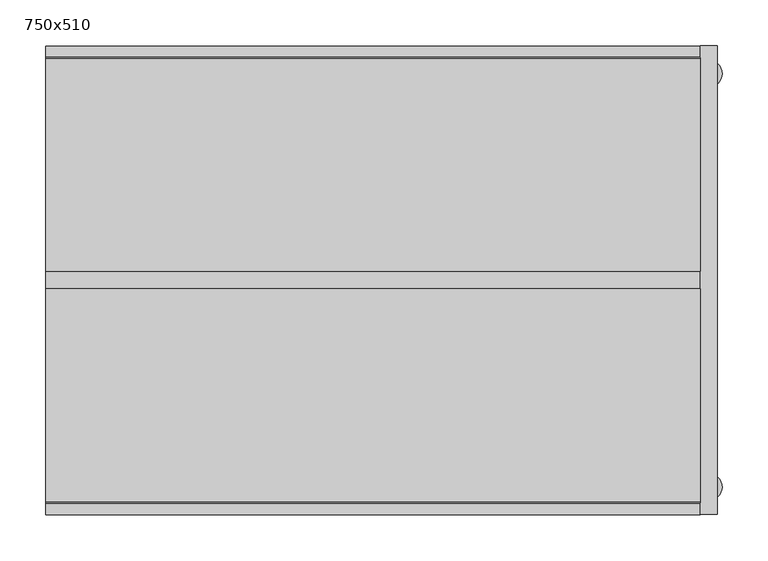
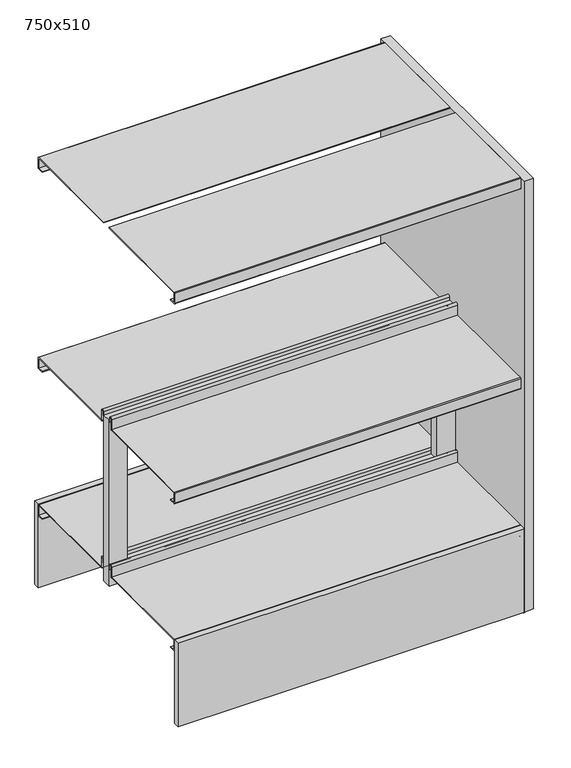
"""IFC4 building model written with IfcOpenShell, lengths in millimetres: furniture geometry, BK Library - Smaaland DF - 950 : 750x510."""

from ifc_helpers import new_model, si_unit, point, frame, frame_2d, origin, origin_with_axes, place, context, project, spatial, polyline, circle_curve, trimmed, segment, composite_curve, outline, extrude, source, transform, mapped, element, save


def furniture_750x510_70c1093e(model_context):
    return source(origin(), model_context, "Body", "SweptSolid", [
        extrude(outline(polyline([(356.0, 255.0), (356.0, 242.7476624), (-356.0, 242.7476624), (-356.0, 255.0), (356.0, 255.0)])), frame((0.0, 0.0, 13.6999998), z_axis=(0.0, 0.0, 1.0), x_axis=(1.0, 0.0, 0.0)), (0.0, 0.0, 1.0), 181.4999514),
        extrude(outline(polyline([(356.0, -242.7476624), (356.0, -255.0), (-356.0, -255.0), (-356.0, -242.7476624), (356.0, -242.7476624)])), frame((0.0, 0.0, 13.6999998), z_axis=(0.0, 0.0, 1.0), x_axis=(1.0, 0.0, 0.0)), (0.0, 0.0, 1.0), 181.4999514),
        extrude(outline(polyline([(530.699951, -356.0), (170.699951, -356.0), (170.699951, 356.0), (530.699951, 356.0), (530.699951, -356.0)]), holes=[polyline([(490.6999512, -317.5), (490.6999512, 317.5), (210.6999512, 317.5), (210.6999512, -317.5), (490.6999512, -317.5)])]), frame((0.0, -9.5, 0.0), z_axis=(0.0, 1.0, 0.0), x_axis=(0.0, 0.0, 1.0)), (0.0, 0.0, 1.0), 19.0),
        extrude(outline(composite_curve([segment(polyline([(9.5, 950.0), (241.25, 950.0)]), True, "CONTINUOUS"), segment(trimmed(circle_curve(frame_2d((241.25, 948.5)), 1.5), [point((241.25, 950.0))], [point((242.75, 948.5))], False, "CARTESIAN"), True, "CONTINUOUS"), segment(polyline([(242.75, 948.5), (242.75, 926.5)]), True, "CONTINUOUS"), segment(trimmed(circle_curve(frame_2d((241.25, 926.5)), 1.5), [point((242.75, 926.5))], [point((241.25, 925.0))], False, "CARTESIAN"), True, "CONTINUOUS"), segment(polyline([(241.25, 925.0), (229.25, 925.0), (229.25, 926.5), (241.25, 926.5), (241.25, 948.0), (9.5, 948.0), (9.5, 950.0)]), True, "CONTINUOUS")], self_intersect=False)), frame((-356.0, 0.0, 0.0), z_axis=(1.0, 0.0, 0.0), x_axis=(0.0, 1.0, 0.0)), (0.0, 0.0, 1.0), 712.0),
        extrude(outline(composite_curve([segment(polyline([(17.75, 515.1999512), (241.25, 515.1999512)]), True, "CONTINUOUS"), segment(trimmed(circle_curve(frame_2d((241.25, 513.6999512)), 1.5), [point((241.25, 515.1999512))], [point((242.75, 513.6999512))], False, "CARTESIAN"), True, "CONTINUOUS"), segment(polyline([(242.75, 513.6999512), (242.75, 492.1999512)]), True, "CONTINUOUS"), segment(trimmed(circle_curve(frame_2d((241.25, 492.1999512)), 1.5), [point((242.75, 492.1999512))], [point((241.25, 490.6999512))], False, "CARTESIAN"), True, "CONTINUOUS"), segment(polyline([(241.25, 490.6999512), (229.25, 490.6999512), (229.25, 492.1999512), (241.25, 492.1999512), (241.25, 513.6999512), (17.7048221, 513.6999512)]), True, "CONTINUOUS"), segment(trimmed(circle_curve(frame_2d((17.7048221, 515.1547733)), 1.4548221), [point((17.7048221, 513.6999512))], [point((16.25, 515.1547733))], False, "CARTESIAN"), True, "CONTINUOUS"), segment(polyline([(16.25, 515.1547733), (16.25, 536.7020126)]), True, "CONTINUOUS"), segment(trimmed(circle_curve(frame_2d((14.25, 536.7020126)), 2.0), [point((16.25, 536.7020126))], [point((12.25, 536.7020126))], True, "CARTESIAN"), True, "CONTINUOUS"), segment(polyline([(12.25, 536.7020126), (12.25, 528.1999512), (10.75, 528.1999512), (10.75, 536.7196336)]), True, "CONTINUOUS"), segment(trimmed(circle_curve(frame_2d((14.25, 536.7196336)), 3.5), [point((10.75, 536.7196336))], [point((17.75, 536.7196336))], False, "CARTESIAN"), True, "CONTINUOUS"), segment(polyline([(17.75, 536.7196336), (17.75, 515.1999512)]), True, "CONTINUOUS")], self_intersect=False)), frame((-356.0, 0.0, 0.0), z_axis=(1.0, 0.0, 0.0), x_axis=(0.0, 1.0, 0.0)), (0.0, 0.0, 1.0), 712.0),
        extrude(outline(composite_curve([segment(polyline([(17.75, 195.1999512), (241.25, 195.1999512)]), True, "CONTINUOUS"), segment(trimmed(circle_curve(frame_2d((241.25, 193.6999512)), 1.5), [point((241.25, 195.1999512))], [point((242.75, 193.6999512))], False, "CARTESIAN"), True, "CONTINUOUS"), segment(polyline([(242.75, 193.6999512), (242.75, 172.1999512)]), True, "CONTINUOUS"), segment(trimmed(circle_curve(frame_2d((241.25, 172.1999512)), 1.5), [point((242.75, 172.1999512))], [point((241.25, 170.6999512))], False, "CARTESIAN"), True, "CONTINUOUS"), segment(polyline([(241.25, 170.6999512), (229.25, 170.6999512), (229.25, 172.1999512), (241.25, 172.1999512), (241.25, 193.6999512), (17.7048221, 193.6999512)]), True, "CONTINUOUS"), segment(trimmed(circle_curve(frame_2d((17.7048221, 195.1547733)), 1.4548221), [point((17.7048221, 193.6999512))], [point((16.25, 195.1547733))], False, "CARTESIAN"), True, "CONTINUOUS"), segment(polyline([(16.25, 195.1547733), (16.25, 216.7020126)]), True, "CONTINUOUS"), segment(trimmed(circle_curve(frame_2d((14.25, 216.7020126)), 2.0), [point((16.25, 216.7020126))], [point((12.25, 216.7020126))], True, "CARTESIAN"), True, "CONTINUOUS"), segment(polyline([(12.25, 216.7020126), (12.25, 208.1999512), (10.75, 208.1999512), (10.75, 216.7196336)]), True, "CONTINUOUS"), segment(trimmed(circle_curve(frame_2d((14.25, 216.7196336)), 3.5), [point((10.75, 216.7196336))], [point((17.75, 216.7196336))], False, "CARTESIAN"), True, "CONTINUOUS"), segment(polyline([(17.75, 216.7196336), (17.75, 195.1999512)]), True, "CONTINUOUS")], self_intersect=False)), frame((-356.0, 0.0, 0.0), z_axis=(1.0, 0.0, 0.0), x_axis=(0.0, 1.0, 0.0)), (0.0, 0.0, 1.0), 712.0),
        extrude(outline(composite_curve([segment(polyline([(-9.5, 950.0), (-9.5, 948.0), (-241.25, 948.0), (-241.25, 926.5), (-229.25, 926.5), (-229.25, 925.0), (-241.25, 925.0)]), True, "CONTINUOUS"), segment(trimmed(circle_curve(frame_2d((-241.25, 926.5)), 1.5), [point((-241.25, 925.0))], [point((-242.75, 926.5))], False, "CARTESIAN"), True, "CONTINUOUS"), segment(polyline([(-242.75, 926.5), (-242.75, 948.5)]), True, "CONTINUOUS"), segment(trimmed(circle_curve(frame_2d((-241.25, 948.5)), 1.5), [point((-242.75, 948.5))], [point((-241.25, 950.0))], False, "CARTESIAN"), True, "CONTINUOUS"), segment(polyline([(-241.25, 950.0), (-9.5, 950.0)]), True, "CONTINUOUS")], self_intersect=False)), frame((-356.0, 0.0, 0.0), z_axis=(1.0, 0.0, 0.0), x_axis=(0.0, 1.0, 0.0)), (0.0, 0.0, 1.0), 712.0),
        extrude(outline(composite_curve([segment(polyline([(-17.75, 515.1999512), (-17.75, 536.7196336)]), True, "CONTINUOUS"), segment(trimmed(circle_curve(frame_2d((-14.25, 536.7196336)), 3.5), [point((-17.75, 536.7196336))], [point((-10.75, 536.7196336))], False, "CARTESIAN"), True, "CONTINUOUS"), segment(polyline([(-10.75, 536.7196336), (-10.75, 528.1999512), (-12.25, 528.1999512), (-12.25, 536.7020126)]), True, "CONTINUOUS"), segment(trimmed(circle_curve(frame_2d((-14.25, 536.7020126)), 2.0), [point((-12.25, 536.7020126))], [point((-16.25, 536.7020126))], True, "CARTESIAN"), True, "CONTINUOUS"), segment(polyline([(-16.25, 536.7020126), (-16.25, 515.1547733)]), True, "CONTINUOUS"), segment(trimmed(circle_curve(frame_2d((-17.7048221, 515.1547733)), 1.4548221), [point((-16.25, 515.1547733))], [point((-17.7048221, 513.6999512))], False, "CARTESIAN"), True, "CONTINUOUS"), segment(polyline([(-17.7048221, 513.6999512), (-241.25, 513.6999512), (-241.25, 492.1999512), (-229.25, 492.1999512), (-229.25, 490.6999512), (-241.25, 490.6999512)]), True, "CONTINUOUS"), segment(trimmed(circle_curve(frame_2d((-241.25, 492.1999512)), 1.5), [point((-241.25, 490.6999512))], [point((-242.75, 492.1999512))], False, "CARTESIAN"), True, "CONTINUOUS"), segment(polyline([(-242.75, 492.1999512), (-242.75, 513.6999512)]), True, "CONTINUOUS"), segment(trimmed(circle_curve(frame_2d((-241.25, 513.6999512)), 1.5), [point((-242.75, 513.6999512))], [point((-241.25, 515.1999512))], False, "CARTESIAN"), True, "CONTINUOUS"), segment(polyline([(-241.25, 515.1999512), (-17.75, 515.1999512)]), True, "CONTINUOUS")], self_intersect=False)), frame((-356.0, 0.0, 0.0), z_axis=(1.0, 0.0, 0.0), x_axis=(0.0, 1.0, 0.0)), (0.0, 0.0, 1.0), 712.0),
        extrude(outline(composite_curve([segment(polyline([(-17.75, 195.1999512), (-17.75, 216.7196336)]), True, "CONTINUOUS"), segment(trimmed(circle_curve(frame_2d((-14.25, 216.7196336)), 3.5), [point((-17.75, 216.7196336))], [point((-10.75, 216.7196336))], False, "CARTESIAN"), True, "CONTINUOUS"), segment(polyline([(-10.75, 216.7196336), (-10.75, 208.1999512), (-12.25, 208.1999512), (-12.25, 216.7020126)]), True, "CONTINUOUS"), segment(trimmed(circle_curve(frame_2d((-14.25, 216.7020126)), 2.0), [point((-12.25, 216.7020126))], [point((-16.25, 216.7020126))], True, "CARTESIAN"), True, "CONTINUOUS"), segment(polyline([(-16.25, 216.7020126), (-16.25, 195.1547733)]), True, "CONTINUOUS"), segment(trimmed(circle_curve(frame_2d((-17.7048221, 195.1547733)), 1.4548221), [point((-16.25, 195.1547733))], [point((-17.7048221, 193.6999512))], False, "CARTESIAN"), True, "CONTINUOUS"), segment(polyline([(-17.7048221, 193.6999512), (-241.25, 193.6999512), (-241.25, 172.1999512), (-229.25, 172.1999512), (-229.25, 170.6999512), (-241.25, 170.6999512)]), True, "CONTINUOUS"), segment(trimmed(circle_curve(frame_2d((-241.25, 172.1999512)), 1.5), [point((-241.25, 170.6999512))], [point((-242.75, 172.1999512))], False, "CARTESIAN"), True, "CONTINUOUS"), segment(polyline([(-242.75, 172.1999512), (-242.75, 193.6999512)]), True, "CONTINUOUS"), segment(trimmed(circle_curve(frame_2d((-241.25, 193.6999512)), 1.5), [point((-242.75, 193.6999512))], [point((-241.25, 195.1999512))], False, "CARTESIAN"), True, "CONTINUOUS"), segment(polyline([(-241.25, 195.1999512), (-17.75, 195.1999512)]), True, "CONTINUOUS")], self_intersect=False)), frame((-356.0, 0.0, 0.0), z_axis=(1.0, 0.0, 0.0), x_axis=(0.0, 1.0, 0.0)), (0.0, 0.0, 1.0), 712.0),
        extrude(outline(polyline([(356.0, 255.0), (375.0, 255.0), (375.0, -255.0), (356.0, -255.0), (356.0, 255.0)])), frame((0.0, 0.0, 13.6999998), z_axis=(0.0, 0.0, 1.0), x_axis=(1.0, 0.0, 0.0)), (0.0, 0.0, 1.0), 936.3000002),
        extrude(outline(composite_curve([segment(trimmed(circle_curve(frame_2d((365.5005427, 224.9952633)), 14.4994573), [point((380.0, 224.9952633))], [point((351.0010853, 224.9952633))], False, "CARTESIAN"), True, "CONTINUOUS"), segment(trimmed(circle_curve(frame_2d((365.5005427, 224.9952633)), 14.4994573), [point((351.0010853, 224.9952633))], [point((380.0, 224.9952633))], False, "CARTESIAN"), True, "CONTINUOUS")], self_intersect=False)), origin_with_axes(), (0.0, 0.0, 1.0), 13.6999998),
        extrude(outline(composite_curve([segment(trimmed(circle_curve(frame_2d((365.5005427, -224.9952633)), 14.4994573), [point((380.0, -224.9952633))], [point((351.0010853, -224.9952633))], False, "CARTESIAN"), True, "CONTINUOUS"), segment(trimmed(circle_curve(frame_2d((365.5005427, -224.9952633)), 14.4994573), [point((351.0010853, -224.9952633))], [point((380.0, -224.9952633))], False, "CARTESIAN"), True, "CONTINUOUS")], self_intersect=False)), origin_with_axes(), (0.0, 0.0, 1.0), 13.6999998),
    ])


if __name__ == "__main__":
    model = new_model("IFC4")
    model_context = context("Model", 3, world=origin())
    ifc_project = project(units=[si_unit("LENGTHUNIT", "METRE", prefix="MILLI")], contexts=[model_context])
    site = spatial("IfcSite", under=ifc_project)
    building = spatial("IfcBuilding", under=site)
    placement = place(None, origin())
    furniture_750x510_shape = furniture_750x510_70c1093e(model_context)
    element("IfcFurniture", 1, ObjectType="BK Library - Smaaland DF - 950 : 750x510", at=placement, inside=building, context=model_context, shape_type="MappedRepresentation", body=[
        mapped(furniture_750x510_shape, transform((0.0, 0.0, 0.0), x_axis=(1.0, 0.0, 0.0), y_axis=(0.0, 1.0, 0.0), z_axis=(0.0, 0.0, 1.0))),
    ])
    save(model, "model.ifc")
